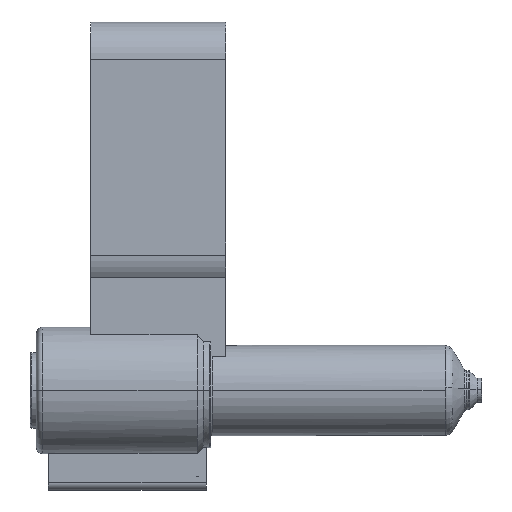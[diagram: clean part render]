
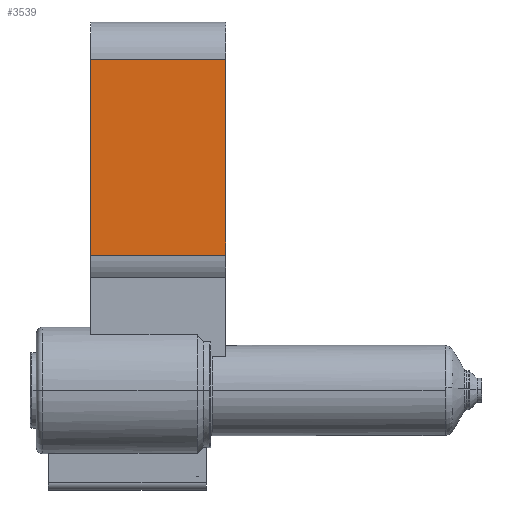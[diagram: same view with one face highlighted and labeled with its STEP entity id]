
A CAD part, top view. The second image highlights one B-rep face of the part: STEP entity #3539.
In plain terms, the highlighted planar face has unit normal (0, 0, 1).
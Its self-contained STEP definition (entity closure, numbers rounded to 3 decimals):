
#522 = FACE_OUTER_BOUND ( 'NONE', #7992, .T. ) ;
#535 = CARTESIAN_POINT ( 'NONE',  ( 20., 45., 12.5 ) ) ;
#563 = LINE ( 'NONE', #1887, #7014 ) ;
#650 = EDGE_CURVE ( 'NONE', #3587, #3058, #7062, .T. ) ;
#1674 = DIRECTION ( 'NONE',  ( -1., 0., 0. ) ) ;
#1887 = CARTESIAN_POINT ( 'NONE',  ( 65., 110., 12.5 ) ) ;
#1924 = DIRECTION ( 'NONE',  ( 0., 0., 1. ) ) ;
#2245 = EDGE_CURVE ( 'NONE', #3587, #2705, #2559, .T. ) ;
#2359 = VECTOR ( 'NONE', #1674, 1000. ) ;
#2434 = CARTESIAN_POINT ( 'NONE',  ( 65., 110., 12.5 ) ) ;
#2525 = DIRECTION ( 'NONE',  ( -1., 0., 0. ) ) ;
#2559 = LINE ( 'NONE', #2949, #2359 ) ;
#2670 = VECTOR ( 'NONE', #7903, 1000. ) ;
#2705 = VERTEX_POINT ( 'NONE', #535 ) ;
#2949 = CARTESIAN_POINT ( 'NONE',  ( 65., 45., 12.5 ) ) ;
#3058 = VERTEX_POINT ( 'NONE', #6566 ) ;
#3286 = AXIS2_PLACEMENT_3D ( 'NONE', #8329, #1924, #6429 ) ;
#3349 = ORIENTED_EDGE ( 'NONE', *, *, #6827, .F. ) ;
#3539 = ADVANCED_FACE ( 'NONE', ( #522 ), #6403, .T. ) ;
#3587 = VERTEX_POINT ( 'NONE', #5800 ) ;
#3712 = DIRECTION ( 'NONE',  ( 0., 1., 0. ) ) ;
#4182 = ORIENTED_EDGE ( 'NONE', *, *, #4322, .T. ) ;
#4198 = CARTESIAN_POINT ( 'NONE',  ( 20., 110., 12.5 ) ) ;
#4322 = EDGE_CURVE ( 'NONE', #3058, #5824, #563, .T. ) ;
#5197 = ORIENTED_EDGE ( 'NONE', *, *, #2245, .F. ) ;
#5800 = CARTESIAN_POINT ( 'NONE',  ( 65., 45., 12.5 ) ) ;
#5824 = VERTEX_POINT ( 'NONE', #4198 ) ;
#6403 = PLANE ( 'NONE',  #3286 ) ;
#6429 = DIRECTION ( 'NONE',  ( 0., -1., 0. ) ) ;
#6566 = CARTESIAN_POINT ( 'NONE',  ( 65., 110., 12.5 ) ) ;
#6678 = VECTOR ( 'NONE', #3712, 1000. ) ;
#6827 = EDGE_CURVE ( 'NONE', #2705, #5824, #7820, .T. ) ;
#7014 = VECTOR ( 'NONE', #2525, 1000. ) ;
#7062 = LINE ( 'NONE', #2434, #6678 ) ;
#7259 = CARTESIAN_POINT ( 'NONE',  ( 20., 110., 12.5 ) ) ;
#7820 = LINE ( 'NONE', #7259, #2670 ) ;
#7903 = DIRECTION ( 'NONE',  ( 0., 1., 0. ) ) ;
#7992 = EDGE_LOOP ( 'NONE', ( #4182, #3349, #5197, #8335 ) ) ;
#8329 = CARTESIAN_POINT ( 'NONE',  ( 65., 110., 12.5 ) ) ;
#8335 = ORIENTED_EDGE ( 'NONE', *, *, #650, .T. ) ;
